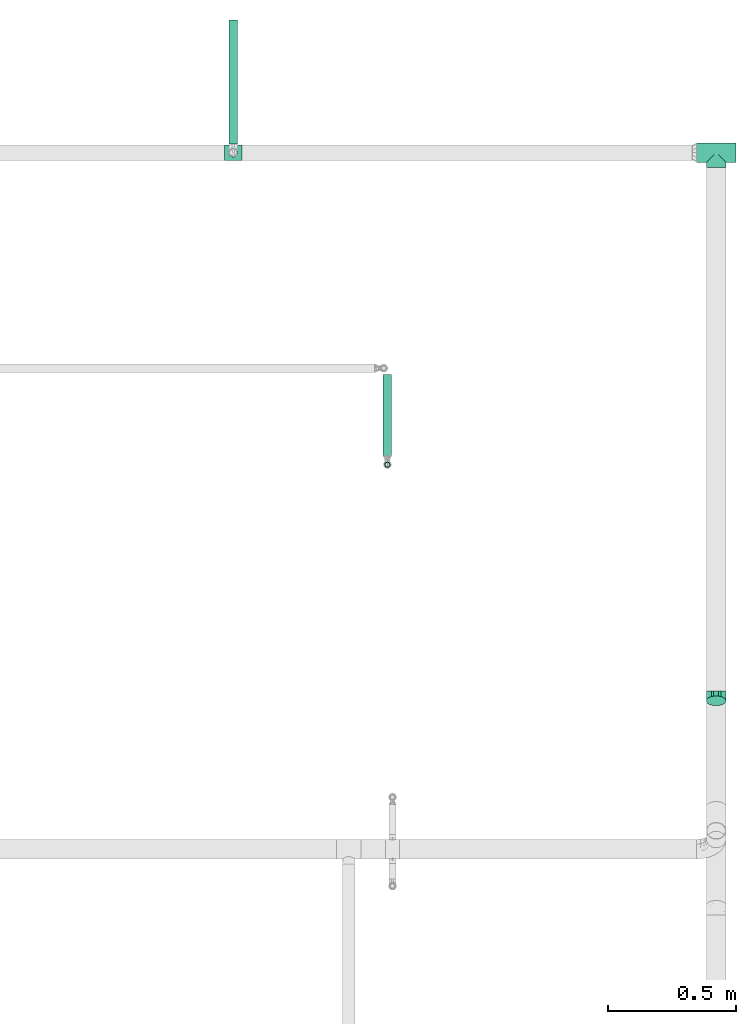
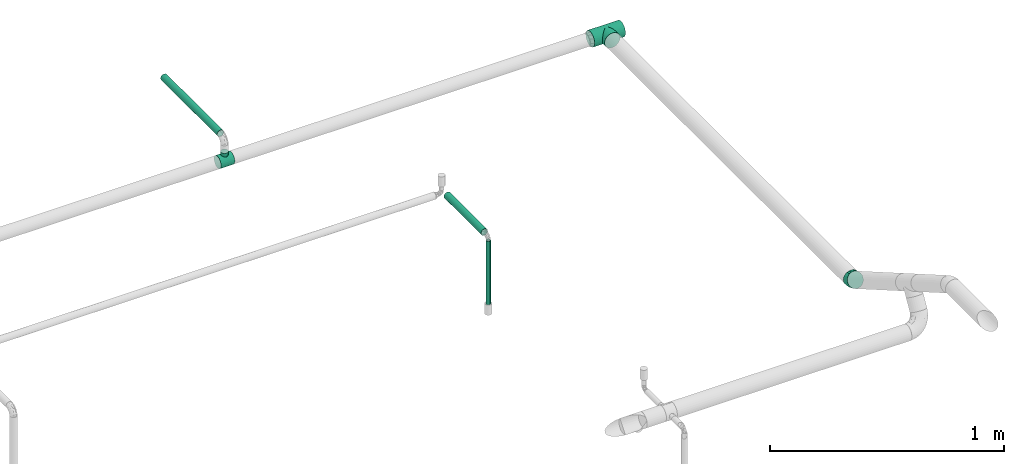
# One storey, part 15 of 51: 3 flow fittings, 3 flow segments.
"""IFC2X3 building model written with IfcOpenShell, lengths in millimetres."""

from ifc_helpers import new_model, entity, si_unit, converted_unit, derived_unit, direction, frame, origin_with_axes, origin_2d_with_axis, place, context, subcontext, project, spatial, hollow_circle, extrude, open_shell, surface_model, source, transform, mapped, type_object, element, save


model = new_model("IFC2X3")

# Units and contexts
model_context = context("Model", 3, precision=0.01, world=frame((0.0, 4.29681676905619e-09, 0.0)), true_north=direction((4.01073788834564e-13, 1.0)))
plan_context = context("Plan", 3, precision=0.01, world=frame((0.0, 4.29681676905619e-09, 0.0)), true_north=direction((4.01073788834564e-13, 1.0)))
body_context = subcontext(model_context, "Body", "Model", "MODEL_VIEW")
ifc_project = project(units=[converted_unit("PLANEANGLEUNIT", "DEGREE", entity("IfcPositiveLengthMeasure", 0.0174532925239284), si_unit("PLANEANGLEUNIT", "RADIAN"), dimensions=[0, 0, 0, 0, 0, 0, 0]), si_unit("AREAUNIT", "SQUARE_METRE"), si_unit("LENGTHUNIT", "METRE", prefix="MILLI"), si_unit("MASSUNIT", "GRAM", prefix="KILO"), si_unit("POWERUNIT", "WATT"), si_unit("PRESSUREUNIT", "PASCAL"), si_unit("FORCEUNIT", "NEWTON", prefix="KILO"), si_unit("ELECTRICVOLTAGEUNIT", "VOLT"), si_unit("ELECTRICCURRENTUNIT", "AMPERE"), si_unit("THERMODYNAMICTEMPERATUREUNIT", "DEGREE_CELSIUS"), si_unit("TIMEUNIT", "SECOND"), si_unit("VOLUMEUNIT", "CUBIC_METRE"), derived_unit("LINEARVELOCITYUNIT", [(si_unit("LENGTHUNIT", "METRE"), 1), (si_unit("TIMEUNIT", "SECOND"), -1)]), derived_unit("VOLUMETRICFLOWRATEUNIT", [(si_unit("VOLUMEUNIT", "CUBIC_METRE"), 1), (si_unit("TIMEUNIT", "SECOND"), -1)]), derived_unit("THERMALTRANSMITTANCEUNIT", [(si_unit("POWERUNIT", "WATT"), 1), (si_unit("THERMODYNAMICTEMPERATUREUNIT", "KELVIN"), -1), (si_unit("AREAUNIT", "SQUARE_METRE"), -1)]), derived_unit("SOUNDPRESSUREUNIT", [(si_unit("PRESSUREUNIT", "PASCAL"), 1)])], contexts=[model_context, plan_context])

# Site, building, storey
site_placement = place(None, frame((0.0, -4.29681676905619e-09, 0.0), z_axis=(0.0, 0.0, 1.0), x_axis=(1.0, 0.0, 0.0)))
site = spatial("IfcSite", under=ifc_project, at=site_placement, Name="ENGM", CompositionType="ELEMENT")
building_placement = place(site_placement, frame((0.0, 4.29681676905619e-09, 0.0), z_axis=(0.0, 0.0, 1.0), x_axis=(1.0, 0.0, 0.0)))
building = spatial("IfcBuilding", under=site, at=building_placement, Name="TH", CompositionType="ELEMENT")
storey_placement = place(building_placement, frame((0.0, 0.0, 210200.0), z_axis=(0.0, 0.0, 1.0), x_axis=(1.0, 0.0, 0.0)))
storey = spatial("IfcBuildingStorey", under=building, at=storey_placement, Name="Nivå F - 0,7 m", CompositionType="ELEMENT", Elevation=210200.0)

# Flow fittings
pipe_fitting_type_1 = type_object("IfcPipeFittingType", Name="magi_pipe_fe_tee_centric_90_NOR", PredefinedType="JUNCTION")
shared_shape_1 = source(origin_with_axes(), body_context, "Body", "SurfaceModel", [
    surface_model("IfcShellBasedSurfaceModel", [(-76.2, 19.05, -32.99557), (-76.2, 9.86101, -36.80177), (-76.2, 0.0, -38.1), (-76.2, 26.94077, -26.94077), (-76.2, 36.80177, -9.86101), (-76.2, 32.99557, -19.05), (-76.2, -19.05, -32.99557), (-76.2, -26.94077, -26.94077), (-76.2, -9.86101, -36.80177), (-76.2, 38.1, 0.0), (-76.2, 36.80177, 9.86101), (-76.2, -38.1, 0.0), (-76.2, -36.80177, -9.86101), (-76.2, -32.99557, -19.05), (-76.2, 32.99557, 19.05), (-76.2, -36.80177, 9.86101), (-76.2, 19.05, 32.99557), (-76.2, 26.94077, 26.94077), (-76.2, 0.0, 38.1), (-76.2, 9.86101, 36.80177), (-76.2, -26.94077, 26.94077), (-76.2, -32.99557, 19.05), (-76.2, -9.86101, 36.80177), (-76.2, -19.05, 32.99557), (76.2, 0.0, -38.1), (76.2, -36.80177, 9.86101), (76.2, -38.1, 0.0), (76.2, 36.80177, -9.86101), (76.2, 9.86101, -36.80177), (76.2, 19.05, -32.99557), (76.2, 26.94077, -26.94077), (76.2, 32.99557, -19.05), (76.2, -9.86101, -36.80177), (76.2, -26.94077, -26.94077), (76.2, -19.05, -32.99557), (76.2, -32.99557, -19.05), (76.2, -36.80177, -9.86101), (76.2, 19.05, 32.99557), (76.2, 36.80177, 9.86101), (76.2, 32.99557, 19.05), (76.2, 0.0, 38.1), (76.2, 26.94077, 26.94077), (76.2, 9.86101, 36.80177), (76.2, -32.99557, 19.05), (76.2, -26.94077, 26.94077), (76.2, -19.05, 32.99557), (76.2, -9.86101, 36.80177), (76.2, 38.1, 0.0), (37.03376, -37.03376, 8.95045), (38.1, -38.1, 0.0), (76.2, -34.89867, 14.4555), (35.56052, -35.56052, 12.98504), (34.08727, -34.08727, 17.01964), (18.8305, -18.8305, 33.12132), (76.2, -22.99539, 29.96817), (29.78269, -29.78269, 23.76134), (76.2, -29.96817, 22.99539), (24.5894, -24.5894, 29.10277), (-35.56052, -35.56052, 12.98504), (-76.2, -34.89867, 14.4555), (-34.08727, -34.08727, 17.01964), (-37.03376, -37.03376, 8.95045), (-38.1, -38.1, 0.0), (-18.8305, -18.8305, 33.12132), (-76.2, -22.99539, 29.96817), (-29.78269, -29.78269, 23.76134), (-24.5894, -24.5894, 29.10277), (-76.2, -29.96817, 22.99539), (-12.71924, -12.71924, 35.91422), (6.40528, -6.40528, 37.55772), (12.71924, -12.71924, 35.91422), (0.0, 0.0, 38.1), (-6.40528, -6.40528, 37.55772), (6.40528, -6.40528, -37.55772), (0.0, 0.0, -38.1), (12.71924, -12.71924, -35.91422), (-24.5894, -24.5894, -29.10277), (-76.2, -22.99539, -29.96817), (-35.56052, -35.56052, -12.98504), (-37.03376, -37.03376, -8.95045), (-29.78269, -29.78269, -23.76134), (-76.2, -29.96817, -22.99539), (-6.40528, -6.40528, -37.55772), (-12.71924, -12.71924, -35.91422), (18.8305, -18.8305, -33.12132), (76.2, -22.99539, -29.96817), (24.5894, -24.5894, -29.10277), (-76.2, -34.89867, -14.4555), (-34.08727, -34.08727, -17.01964), (29.78269, -29.78269, -23.76134), (76.2, -29.96817, -22.99539), (37.03376, -37.03376, -8.95045), (35.56052, -35.56052, -12.98504), (34.08727, -34.08727, -17.01964), (76.2, -34.89867, -14.4555), (-18.8305, -18.8305, -33.12132), (0.0, -57.15, -38.1), (9.86101, -57.15, -36.80177), (19.05, -57.15, -32.99557), (26.94077, -57.15, -26.94077), (32.99557, -57.15, -19.05), (36.80177, -57.15, -9.86101), (0.0, -57.15, 38.1), (-26.94077, -57.15, -26.94077), (-9.86101, -57.15, -36.80177), (-19.05, -57.15, -32.99557), (-36.80177, -57.15, -9.86101), (-32.99557, -57.15, -19.05), (-32.99557, -57.15, 19.05), (-36.80177, -57.15, 9.86101), (-38.1, -57.15, 0.0), (19.05, -57.15, 32.99557), (36.80177, -57.15, 9.86101), (32.99557, -57.15, 19.05), (26.94077, -57.15, 26.94077), (9.86101, -57.15, 36.80177), (-26.94077, -57.15, 26.94077), (-19.05, -57.15, 32.99557), (-9.86101, -57.15, 36.80177), (38.1, -57.15, 0.0)], [open_shell([[[0, 1, 2]], [[3, 0, 2]], [[4, 5, 3]], [[6, 7, 8]], [[9, 4, 10]], [[11, 3, 2]], [[4, 3, 11]], [[11, 8, 7]], [[12, 11, 13]], [[7, 13, 11]], [[11, 2, 8]], [[11, 10, 4]], [[14, 10, 11]], [[14, 11, 15]], [[15, 16, 14]], [[17, 14, 16]], [[18, 19, 16]], [[20, 18, 21]], [[15, 21, 18]], [[22, 18, 23]], [[20, 23, 18]], [[18, 16, 15]], [[24, 25, 26]], [[27, 28, 29]], [[30, 31, 27]], [[30, 27, 29]], [[28, 25, 24]], [[32, 33, 34]], [[32, 24, 33]], [[35, 26, 36]], [[26, 35, 33]], [[24, 26, 33]], [[28, 27, 37]], [[27, 38, 37]], [[37, 38, 39]], [[37, 40, 28]], [[37, 39, 41]], [[40, 37, 42]], [[43, 40, 44]], [[25, 28, 43]], [[45, 40, 46]], [[40, 45, 44]], [[40, 43, 28]], [[38, 27, 47]], [[26, 25, 48]], [[48, 49, 26]], [[25, 50, 51]], [[50, 43, 52]], [[45, 53, 54]], [[44, 55, 56]], [[55, 44, 57]], [[43, 55, 52]], [[57, 44, 54]], [[15, 58, 59]], [[60, 59, 58]], [[61, 11, 62]], [[11, 61, 15]], [[15, 61, 58]], [[63, 23, 64]], [[65, 66, 20]], [[65, 67, 21]], [[20, 66, 64]], [[63, 68, 23]], [[65, 21, 60]], [[50, 52, 51]], [[54, 53, 57]], [[46, 40, 69]], [[25, 51, 48]], [[53, 45, 70]], [[69, 70, 46]], [[65, 20, 67]], [[69, 40, 71]], [[70, 45, 46]], [[14, 41, 39]], [[10, 39, 38]], [[16, 42, 37]], [[17, 37, 41]], [[42, 71, 40]], [[9, 38, 47]], [[72, 71, 18]], [[60, 21, 59]], [[72, 22, 68]], [[22, 72, 18]], [[22, 23, 68]], [[71, 19, 18]], [[63, 64, 66]], [[42, 19, 71]], [[16, 19, 42]], [[16, 37, 17]], [[14, 17, 41]], [[10, 14, 39]], [[38, 9, 10]], [[55, 43, 56]], [[3, 31, 30]], [[4, 27, 31]], [[9, 47, 27]], [[0, 30, 29]], [[24, 32, 73]], [[28, 24, 74]], [[73, 32, 75]], [[76, 7, 77]], [[29, 28, 1]], [[32, 34, 75]], [[24, 73, 74]], [[4, 31, 5]], [[0, 3, 30]], [[5, 31, 3]], [[9, 27, 4]], [[12, 78, 79]], [[80, 13, 81]], [[82, 83, 8]], [[74, 82, 2]], [[74, 2, 1]], [[2, 82, 8]], [[83, 6, 8]], [[1, 0, 29]], [[74, 1, 28]], [[84, 85, 86]], [[85, 33, 86]], [[87, 88, 78]], [[84, 34, 85]], [[89, 86, 33]], [[90, 35, 89]], [[34, 84, 75]], [[36, 91, 92]], [[91, 36, 26]], [[93, 94, 92]], [[49, 91, 26]], [[35, 93, 89]], [[76, 77, 95]], [[36, 92, 94]], [[77, 6, 95]], [[7, 76, 80]], [[7, 80, 81]], [[93, 35, 94]], [[95, 6, 83]], [[79, 62, 11]], [[12, 87, 78]], [[88, 87, 13]], [[12, 79, 11]], [[88, 13, 80]], [[89, 33, 90]], [[96, 97, 98]], [[96, 98, 99]], [[99, 100, 101]], [[99, 101, 96]], [[102, 103, 96]], [[104, 103, 105]], [[104, 96, 103]], [[103, 106, 107]], [[103, 108, 106]], [[106, 109, 110]], [[111, 96, 101]], [[112, 113, 101]], [[101, 113, 111]], [[111, 102, 96]], [[111, 113, 114]], [[102, 111, 115]], [[108, 102, 116]], [[109, 106, 108]], [[117, 102, 118]], [[102, 117, 116]], [[102, 108, 103]], [[112, 101, 119]], [[61, 62, 110]], [[109, 61, 110]], [[116, 117, 66]], [[65, 108, 116]], [[60, 109, 108]], [[68, 117, 118]], [[60, 61, 109]], [[66, 65, 116]], [[60, 108, 65]], [[68, 63, 117]], [[102, 71, 72]], [[68, 118, 72]], [[66, 117, 63]], [[72, 118, 102]], [[69, 102, 115]], [[111, 70, 115]], [[113, 112, 52]], [[55, 114, 113]], [[57, 111, 114]], [[48, 112, 119]], [[57, 53, 111]], [[70, 69, 115]], [[53, 70, 111]], [[49, 48, 119]], [[52, 55, 113]], [[48, 52, 112]], [[57, 114, 55]], [[102, 69, 71]], [[49, 119, 91]], [[101, 91, 119]], [[89, 100, 99]], [[99, 98, 86]], [[93, 101, 100]], [[75, 98, 97]], [[93, 91, 101]], [[86, 89, 99]], [[93, 100, 89]], [[75, 84, 98]], [[96, 74, 73]], [[75, 97, 73]], [[86, 98, 84]], [[73, 97, 96]], [[82, 96, 104]], [[105, 83, 104]], [[107, 106, 88]], [[80, 103, 107]], [[76, 105, 103]], [[79, 106, 110]], [[76, 95, 105]], [[83, 82, 104]], [[95, 83, 105]], [[62, 79, 110]], [[88, 80, 107]], [[79, 88, 106]], [[76, 103, 80]], [[96, 82, 74]]])]),
])
flow_fitting_1_placement = place(storey_placement, frame((910379.87531, 487040.10129, 2820.0), z_axis=(0.0, 0.0, -1.0), x_axis=(-1.0, 0.0, 0.0)))
element("IfcFlowFitting", 1, at=flow_fitting_1_placement, inside=storey, type_object=pipe_fitting_type_1, Name="magi_pipe_fe_tee_centric_90_NOR", context=body_context, shape_type="MappedRepresentation", body=[
    mapped(shared_shape_1, transform((0.0, 0.0, 0.0), scale=1.0)),
])
pipe_fitting_type_2 = type_object("IfcPipeFittingType", Name="magi_pipe_fe_elbow_short_001", PredefinedType="BEND")
shared_shape_2 = source(origin_with_axes(), body_context, "Body", "SurfaceModel", [
    surface_model("IfcShellBasedSurfaceModel", [(-20.41773, 19.05, -32.99557), (-20.41773, 9.86101, -36.80177), (-20.41773, 0.0, -38.1), (-20.41773, 26.94077, -26.94077), (-20.41773, 36.80177, -9.86101), (-20.41773, 32.99557, -19.05), (-20.41773, -36.80177, 9.86101), (-20.41773, -9.86101, -36.80177), (-20.41773, -26.94077, -26.94077), (-20.41773, -32.99557, -19.05), (-20.41773, -19.05, -32.99557), (-20.41773, -36.80177, -9.86101), (-20.41773, -38.1, 0.0), (-20.41773, 36.80177, 9.86101), (-20.41773, 26.94077, 26.94077), (-20.41773, 32.99557, 19.05), (-20.41773, 9.86101, 36.80177), (-20.41773, 19.05, 32.99557), (-20.41773, -19.05, 32.99557), (-20.41773, 0.0, 38.1), (-20.41773, -32.99557, 19.05), (-20.41773, -26.94077, 26.94077), (-20.41773, -9.86101, 36.80177), (-20.41773, 38.1, 0.0), (12.75177, 18.74875, -36.80177), (22.61278, 1.66898, -36.80177), (17.68227, 10.20886, -38.1), (4.21189, 33.54025, -26.94077), (8.15727, 26.70665, -32.99557), (1.18449, 38.78387, -19.05), (-0.71862, 42.08013, -9.86101), (36.08316, -21.66241, 9.86101), (27.20727, -6.28892, -32.99557), (36.73227, -22.7867, 0.0), (31.15266, -13.12253, -26.94077), (34.18006, -18.36614, -19.05), (36.08316, -21.66241, -9.86101), (-1.36773, 43.20443, 0.0), (-0.71862, 42.08013, 9.86101), (1.18449, 38.78387, 19.05), (4.21189, 33.54025, 26.94077), (8.15727, 26.70665, 32.99557), (12.75177, 18.74875, 36.80177), (27.20727, -6.28892, 32.99557), (31.15266, -13.12253, 26.94077), (34.18006, -18.36614, 19.05), (17.68227, 10.20886, 38.1), (22.61278, 1.66898, 36.80177), (7.29358, -27.22001, 22.33293), (-1.09992, -21.89609, 29.76772), (3.30037, -12.31715, 34.83139), (-2.62523, -3.73317, 37.6728), (-0.57168, -33.71288, 13.85834), (0.09338, -35.5825, 7.01449), (14.39197, -31.9735, 7.08019), (-1.77816, 6.6362, 37.86976), (-8.42528, 31.44358, 23.65813), (-6.56271, 24.49236, 30.62283), (16.29245, -16.64338, 29.88105), (-4.21472, 16.05344, 35.47034), (-10.55672, 39.39823, 0.0), (9.16529, -34.20532, 0.0), (19.18258, -30.05602, 0.0), (-1.58459, -35.62057, 0.0), (19.33002, -28.14585, 13.93569), (0.81323, -3.03502, -37.65129), (-3.26088, 6.32167, -37.86263), (8.20407, -10.65974, -34.91314), (-8.42528, 31.44358, -23.65813), (6.90688, -32.20739, -13.57906), (-6.71328, -35.4169, -11.71236), (-4.03016, -29.34141, -22.69091), (-6.56271, 24.49236, -30.62283), (21.72669, -26.47224, -15.54322), (19.81809, -29.80624, -8.29806), (15.01166, -24.64064, -22.58616), (-4.3735, -17.34553, -33.18873), (5.51141, -20.56885, -29.6049), (-4.45482, 15.99273, -35.46902), (3.54476, -34.93898, -6.77445)], [open_shell([[[0, 1, 2]], [[3, 0, 2]], [[4, 5, 3]], [[6, 3, 2]], [[6, 2, 7]], [[8, 9, 10]], [[10, 9, 6]], [[11, 12, 9]], [[9, 12, 6]], [[10, 6, 7]], [[3, 6, 4]], [[13, 4, 14]], [[15, 13, 14]], [[16, 17, 14]], [[18, 14, 4]], [[16, 14, 19]], [[20, 21, 6]], [[6, 21, 4]], [[22, 19, 18]], [[18, 4, 21]], [[14, 18, 19]], [[23, 4, 13]], [[24, 25, 26]], [[27, 24, 28]], [[27, 29, 30]], [[24, 27, 25]], [[25, 27, 31]], [[32, 33, 34]], [[31, 33, 32]], [[35, 33, 36]], [[33, 35, 34]], [[31, 32, 25]], [[27, 30, 37]], [[37, 38, 39]], [[37, 39, 40]], [[40, 41, 42]], [[40, 42, 37]], [[42, 43, 27]], [[31, 44, 45]], [[44, 31, 43]], [[43, 46, 47]], [[31, 27, 43]], [[42, 46, 43]], [[27, 37, 42]], [[20, 48, 21]], [[49, 50, 18]], [[18, 21, 49]], [[45, 44, 48]], [[19, 22, 51]], [[22, 18, 50]], [[52, 53, 54]], [[51, 55, 19]], [[19, 55, 16]], [[46, 42, 55]], [[48, 20, 52]], [[43, 47, 50]], [[14, 56, 15]], [[57, 14, 17]], [[58, 48, 44]], [[21, 48, 49]], [[16, 59, 17]], [[60, 13, 38]], [[20, 6, 52]], [[60, 23, 13]], [[38, 13, 15]], [[22, 50, 51]], [[16, 55, 59]], [[57, 59, 41]], [[53, 61, 54]], [[62, 54, 61]], [[51, 46, 55]], [[43, 58, 44]], [[12, 63, 53]], [[51, 47, 46]], [[48, 58, 49]], [[52, 64, 48]], [[40, 39, 56]], [[49, 58, 50]], [[50, 58, 43]], [[33, 31, 62]], [[6, 53, 52]], [[57, 56, 14]], [[39, 38, 15]], [[37, 60, 38]], [[54, 31, 64]], [[48, 64, 45]], [[31, 54, 62]], [[42, 59, 55]], [[41, 40, 57]], [[40, 56, 57]], [[12, 53, 6]], [[15, 56, 39]], [[42, 41, 59]], [[59, 57, 17]], [[52, 54, 64]], [[45, 64, 31]], [[61, 53, 63]], [[47, 51, 50]], [[2, 65, 7]], [[26, 66, 24]], [[25, 32, 67]], [[65, 2, 66]], [[68, 3, 5]], [[69, 70, 71]], [[3, 68, 72]], [[73, 36, 74]], [[30, 5, 4]], [[34, 35, 75]], [[76, 67, 77]], [[1, 78, 66]], [[79, 70, 69]], [[9, 70, 11]], [[79, 11, 70]], [[71, 70, 9]], [[8, 10, 76]], [[24, 78, 28]], [[11, 79, 63]], [[9, 8, 71]], [[67, 76, 7]], [[78, 72, 28]], [[72, 68, 27]], [[77, 71, 8]], [[4, 23, 60]], [[33, 74, 36]], [[60, 37, 30]], [[29, 68, 5]], [[73, 75, 35]], [[30, 29, 5]], [[68, 29, 27]], [[71, 77, 75]], [[24, 66, 78]], [[7, 65, 67]], [[2, 1, 66]], [[3, 72, 0]], [[78, 1, 0]], [[65, 66, 26]], [[25, 67, 65]], [[32, 77, 67]], [[72, 78, 0]], [[77, 32, 34]], [[74, 79, 69]], [[69, 71, 75]], [[79, 74, 61]], [[63, 12, 11]], [[33, 62, 74]], [[34, 75, 77]], [[27, 28, 72]], [[25, 65, 26]], [[74, 62, 61]], [[4, 60, 30]], [[73, 74, 69]], [[63, 79, 61]], [[75, 73, 69]], [[36, 73, 35]], [[8, 76, 77]], [[7, 76, 10]]])]),
])
flow_fitting_2_placement = place(storey_placement, frame((910379.87531, 484924.11128, 2820.0), z_axis=(-1.0, 0.0, 0.0), x_axis=(0.0, -1.0, 0.0)))
element("IfcFlowFitting", 2, at=flow_fitting_2_placement, inside=storey, type_object=pipe_fitting_type_2, Name="magi_pipe_fe_elbow_short_001", context=body_context, shape_type="MappedRepresentation", body=[
    mapped(shared_shape_2, transform((0.0, 0.0, 0.0), scale=1.0)),
])
shared_shape_3 = source(origin_with_axes(), body_context, "Body", "SurfaceModel", [
    surface_model("IfcShellBasedSurfaceModel", [(-33.8, 15.1, -26.15397), (-33.8, 7.81634, -29.17096), (-33.8, 0.0, -30.2), (-33.8, 29.17096, -7.81634), (-33.8, 26.15397, -15.1), (-33.8, 21.35462, -21.35462), (-33.8, 30.2, 0.0), (-33.8, -30.2, 0.0), (-33.8, -15.1, -26.15397), (-33.8, -21.35462, -21.35462), (-33.8, -7.81634, -29.17096), (-33.8, -26.15397, -15.1), (-33.8, -29.17096, -7.81634), (-33.8, 26.15397, 15.1), (-33.8, 29.17096, 7.81634), (-33.8, 15.1, 26.15397), (-33.8, -21.35462, 21.35462), (-33.8, 21.35462, 21.35462), (-33.8, 7.81634, 29.17096), (-33.8, -29.17096, 7.81634), (-33.8, -26.15397, 15.1), (-33.8, -7.81634, 29.17096), (-33.8, 0.0, 30.2), (-33.8, -15.1, 26.15397), (33.8, 29.17096, -7.81634), (33.8, 0.0, -30.2), (33.8, 7.81634, -29.17096), (33.8, 21.35462, -21.35462), (33.8, 15.1, -26.15397), (33.8, 26.15397, -15.1), (33.8, -30.2, 0.0), (33.8, -7.81634, -29.17096), (33.8, -21.35462, -21.35462), (33.8, -15.1, -26.15397), (33.8, -29.17096, -7.81634), (33.8, -26.15397, -15.1), (33.8, 30.2, 0.0), (33.8, 29.17096, 7.81634), (33.8, 26.15397, 15.1), (33.8, -29.17096, 7.81634), (33.8, 15.1, 26.15397), (33.8, 7.81634, 29.17096), (33.8, 21.35462, 21.35462), (33.8, -21.35462, 21.35462), (33.8, -26.15397, 15.1), (33.8, -15.1, 26.15397), (33.8, 0.0, 30.2), (33.8, -7.81634, 29.17096), (33.8, -29.68548, 3.90817), (15.846, -29.62306, 5.87488), (16.373, -29.91153, 2.93744), (12.91037, -28.16217, 10.90561), (2.99213, -25.2068, 16.63301), (16.9, -30.2, 0.0), (33.8, -27.66246, 11.45817), (8.50854, -26.43531, 14.60187), (-8.51006, -26.43579, 14.60099), (-33.8, -27.66246, 11.45817), (-12.91447, -28.16405, 10.90075), (-15.84655, -29.62335, 5.87341), (-33.8, -29.68548, 3.90817), (-16.37327, -29.91168, 2.93671), (-16.9, -30.2, 0.0), (-2.99705, -25.20739, 16.63213), (2.99213, -25.2068, -16.63301), (-16.37327, -29.91168, -2.93671), (8.50854, -26.43531, -14.60187), (33.8, -27.66246, -11.45817), (16.373, -29.91153, -2.93744), (-33.8, -29.68548, -3.90817), (-15.84655, -29.62335, -5.87341), (15.846, -29.62306, -5.87488), (12.91037, -28.16217, -10.90561), (33.8, -29.68548, -3.90817), (-2.99705, -25.20739, -16.63213), (-8.51006, -26.43579, -14.60099), (-12.91447, -28.16405, -10.90075), (-33.8, -27.66246, -11.45817), (4.37404, -45.3, -16.32415), (-16.9, -45.3, 0.0), (0.0, -45.3, -16.9), (14.63583, -45.3, -8.45), (8.45, -45.3, -14.63583), (16.32415, -45.3, -4.37404), (11.9501, -45.3, -11.9501), (-11.9501, -45.3, -11.9501), (-8.45, -45.3, -14.63583), (-4.37404, -45.3, -16.32415), (-14.63583, -45.3, -8.45), (-16.32415, -45.3, -4.37404), (16.9, -45.3, 0.0), (8.45, -45.3, 14.63583), (16.32415, -45.3, 4.37404), (14.63583, -45.3, 8.45), (-8.45, -45.3, 14.63583), (11.9501, -45.3, 11.9501), (4.37404, -45.3, 16.32415), (-16.32415, -45.3, 4.37404), (-11.9501, -45.3, 11.9501), (-14.63583, -45.3, 8.45), (0.0, -45.3, 16.9), (-4.37404, -45.3, 16.32415), (-5.75355, -25.82159, 15.61656), (-0.00246, -25.20709, 16.63257), (5.75034, -25.82105, 15.61744), (5.75034, -25.82105, -15.61744), (-0.00246, -25.20709, -16.63257), (-5.75355, -25.82159, -15.61656)], [open_shell([[[0, 1, 2]], [[3, 0, 2]], [[0, 3, 4]], [[5, 0, 4]], [[6, 2, 7]], [[8, 9, 10]], [[9, 2, 10]], [[11, 12, 9]], [[7, 9, 12]], [[9, 7, 2]], [[6, 3, 2]], [[13, 14, 6]], [[7, 15, 13]], [[7, 16, 15]], [[17, 13, 15]], [[18, 15, 16]], [[19, 20, 7]], [[7, 20, 16]], [[21, 22, 23]], [[16, 23, 22]], [[16, 22, 18]], [[7, 13, 6]], [[24, 25, 26]], [[27, 26, 28]], [[29, 24, 26]], [[29, 26, 27]], [[25, 24, 30]], [[31, 32, 33]], [[32, 31, 34]], [[32, 34, 35]], [[34, 31, 30]], [[31, 25, 30]], [[24, 36, 30]], [[36, 37, 38]], [[39, 36, 38]], [[40, 41, 38]], [[40, 38, 42]], [[43, 38, 41]], [[39, 43, 44]], [[39, 38, 43]], [[45, 46, 47]], [[46, 45, 43]], [[41, 46, 43]], [[36, 39, 30]], [[48, 39, 49]], [[30, 48, 50]], [[39, 51, 49]], [[44, 43, 52]], [[30, 50, 53]], [[51, 54, 55]], [[52, 55, 44]], [[48, 49, 50]], [[43, 16, 52]], [[55, 54, 44]], [[56, 57, 58]], [[59, 60, 61]], [[62, 61, 7]], [[59, 58, 19]], [[56, 63, 20]], [[51, 39, 54]], [[20, 57, 56]], [[20, 63, 16]], [[58, 57, 19]], [[63, 52, 16]], [[7, 61, 60]], [[59, 19, 60]], [[43, 23, 16]], [[22, 47, 46]], [[21, 45, 47]], [[18, 46, 41]], [[38, 37, 14]], [[17, 40, 42]], [[13, 42, 38]], [[41, 40, 15]], [[6, 37, 36]], [[23, 45, 21]], [[21, 47, 22]], [[18, 22, 46]], [[41, 15, 18]], [[15, 40, 17]], [[13, 17, 42]], [[14, 13, 38]], [[37, 6, 14]], [[45, 23, 43]], [[4, 24, 29]], [[3, 36, 24]], [[5, 29, 27]], [[25, 31, 10]], [[1, 28, 26]], [[2, 26, 25]], [[27, 28, 0]], [[8, 31, 33]], [[6, 36, 3]], [[3, 24, 4]], [[5, 4, 29]], [[27, 0, 5]], [[0, 28, 1]], [[2, 1, 26]], [[10, 2, 25]], [[31, 8, 10]], [[33, 9, 8]], [[32, 35, 64]], [[7, 65, 62]], [[66, 64, 35]], [[67, 66, 35]], [[32, 64, 9]], [[53, 68, 30]], [[69, 70, 65]], [[71, 72, 34]], [[71, 73, 68]], [[66, 67, 72]], [[34, 72, 67]], [[74, 75, 11]], [[76, 12, 77]], [[11, 9, 74]], [[76, 77, 75]], [[74, 9, 64]], [[76, 70, 12]], [[71, 34, 73]], [[70, 69, 12]], [[65, 7, 69]], [[30, 68, 73]], [[77, 11, 75]], [[32, 9, 33]], [[78, 79, 80]], [[81, 78, 82]], [[81, 83, 78]], [[81, 82, 84]], [[79, 78, 83]], [[80, 85, 86]], [[86, 87, 80]], [[88, 79, 89]], [[85, 80, 88]], [[79, 88, 80]], [[83, 90, 79]], [[91, 90, 92]], [[91, 92, 93]], [[94, 79, 91]], [[91, 93, 95]], [[94, 91, 96]], [[97, 98, 99]], [[98, 97, 94]], [[94, 100, 101]], [[97, 79, 94]], [[96, 100, 94]], [[91, 79, 90]], [[97, 61, 79]], [[58, 99, 98]], [[97, 99, 59]], [[98, 94, 56]], [[61, 62, 79]], [[59, 99, 58]], [[101, 63, 102]], [[56, 58, 98]], [[100, 52, 103]], [[91, 104, 96]], [[100, 96, 52]], [[50, 49, 92]], [[50, 90, 53]], [[104, 91, 55]], [[102, 94, 101]], [[102, 56, 94]], [[100, 63, 101]], [[97, 59, 61]], [[55, 91, 95]], [[95, 51, 55]], [[52, 96, 104]], [[92, 49, 93]], [[90, 50, 92]], [[93, 49, 51]], [[93, 51, 95]], [[103, 63, 100]], [[83, 68, 90]], [[72, 81, 84]], [[83, 81, 71]], [[84, 82, 66]], [[68, 53, 90]], [[71, 81, 72]], [[78, 64, 105]], [[66, 72, 84]], [[80, 74, 106]], [[86, 107, 87]], [[65, 70, 89]], [[105, 82, 78]], [[105, 66, 82]], [[75, 86, 85]], [[83, 71, 68]], [[70, 88, 89]], [[65, 79, 62]], [[85, 88, 76]], [[80, 64, 78]], [[87, 107, 74]], [[74, 80, 87]], [[75, 107, 86]], [[75, 85, 76]], [[76, 88, 70]], [[79, 65, 89]], [[106, 64, 80]]])]),
])
flow_fitting_3_placement = place(storey_placement, frame((908499.91443, 487040.10129, 2819.99995999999), z_axis=(0.0, 1.0, 0.0), x_axis=(1.0, 0.0, 0.0)))
element("IfcFlowFitting", 3, at=flow_fitting_3_placement, inside=storey, type_object=pipe_fitting_type_1, Name="magi_pipe_fe_tee_centric_90_NOR", context=body_context, shape_type="MappedRepresentation", body=[
    mapped(shared_shape_3, transform((0.0, 0.0, 0.0), scale=1.0)),
])

# Flow segments
pipe_segment_type = type_object("IfcPipeSegmentType", Name="Stålrør normaltykke", PredefinedType="RIGIDSEGMENT")
shared_shape_4 = source(origin_with_axes(), body_context, "Body", "SweptSolid", [
    extrude(hollow_circle(Radius=16.9, WallThickness=2.0, at=origin_2d_with_axis()), frame((0.0, 0.0, 0.0), z_axis=(1.0, 0.0, 0.0), x_axis=(0.0, 1.0, 0.0)), (0.0, 0.0, 1.0), 482.5),
])
flow_segment_1_placement = place(storey_placement, frame((908499.91443, 487556.35302, 2938.32088000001), z_axis=(0.0, 0.0, 1.0), x_axis=(0.0, -1.0, 0.0)))
element("IfcFlowSegment", 4, at=flow_segment_1_placement, inside=storey, type_object=pipe_segment_type, Name="Stålrør normaltykke", context=body_context, shape_type="MappedRepresentation", body=[
    mapped(shared_shape_4, transform((0.0, 0.0, 0.0), scale=1.0)),
])
shared_shape_5 = source(origin_with_axes(), body_context, "Body", "SweptSolid", [
    extrude(hollow_circle(Radius=16.9, WallThickness=2.0, at=origin_2d_with_axis()), frame((0.0, 0.0, 0.0), z_axis=(1.0, 0.0, 0.0), x_axis=(0.0, 1.0, 0.0)), (0.0, 0.0, 1.0), 316.5),
])
flow_segment_2_placement = place(storey_placement, frame((909100.0, 485859.20826, 2949.59709), z_axis=(0.0, 9.09999996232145e-05, 0.9999999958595), x_axis=(0.0, 0.9999999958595, -9.09999996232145e-05)))
element("IfcFlowSegment", 5, at=flow_segment_2_placement, inside=storey, type_object=pipe_segment_type, Name="Stålrør normaltykke", context=body_context, shape_type="MappedRepresentation", body=[
    mapped(shared_shape_5, transform((0.0, 0.0, 0.0), scale=1.0)),
])
shared_shape_6 = source(origin_with_axes(), body_context, "Body", "SweptSolid", [
    extrude(hollow_circle(Radius=10.7, WallThickness=2.0, at=origin_2d_with_axis()), frame((0.0, 0.0, 0.0), z_axis=(1.0, 0.0, 0.0), x_axis=(0.0, 1.0, 0.0)), (0.0, 0.0, 1.0), 331.2),
])
flow_segment_3_placement = place(storey_placement, frame((909100.0, 485825.40642, 2596.95199999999), z_axis=(0.0, -1.0, 0.0), x_axis=(0.0, 0.0, 1.0)))
element("IfcFlowSegment", 6, at=flow_segment_3_placement, inside=storey, type_object=pipe_segment_type, Name="Stålrør normaltykke", context=body_context, shape_type="MappedRepresentation", body=[
    mapped(shared_shape_6, transform((0.0, 0.0, 0.0), scale=1.0)),
])

save(model, "model.ifc")
